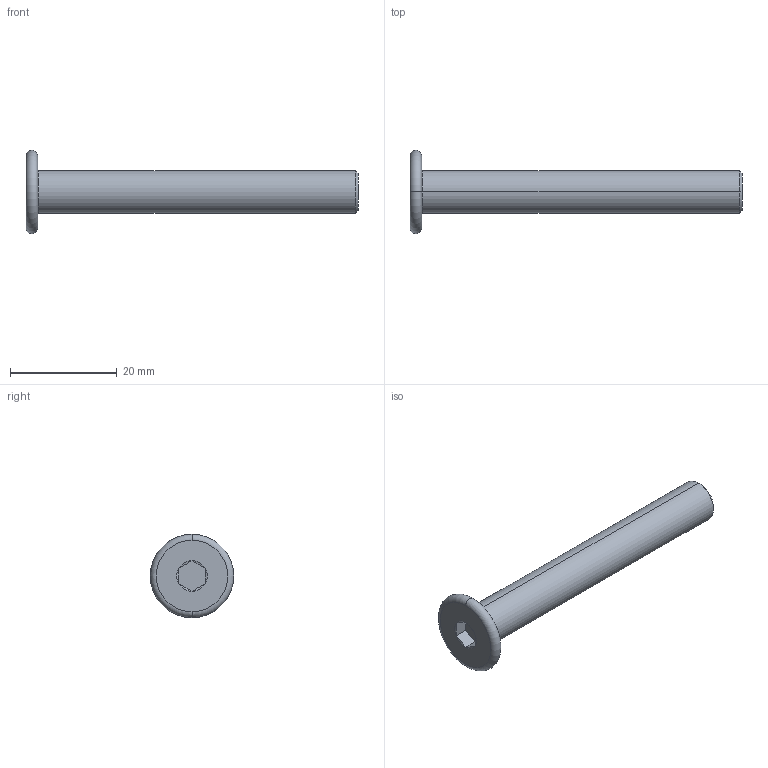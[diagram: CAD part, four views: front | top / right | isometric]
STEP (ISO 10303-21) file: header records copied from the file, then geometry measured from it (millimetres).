
FILE_DESCRIPTION (( 'STEP AP203' ), '1' );
FILE_NAME ('LGD-304M-M8x60.STEP', '2026-08-13T13:39:24', ( '' ), ( '' ), 'SwSTEP 2.0', 'SolidWorks 2020', '' );
FILE_SCHEMA (( 'CONFIG_CONTROL_DESIGN' ));
Length unit declared in the file: millimetre
Products named in the file (1): LGD-304M-M8x60
Bounding box: 62.2 x 15.6 x 15.6 mm (x, y, z)
Volume: 3354.7 mm3; surface area: 1983.1 mm2
Topology: 1 solids, 1 shells, 24 faces, 44 edges, 24 vertices
Faces by surface type: plane 10, cone 8, torus 4, cylinder 2
Entity records: 673 total; most frequent: CARTESIAN_POINT 119, DIRECTION 110, ORIENTED_EDGE 88, AXIS2_PLACEMENT_3D 47, EDGE_CURVE 44, EDGE_LOOP 26, FACE_OUTER_BOUND 24, VERTEX_POINT 24
